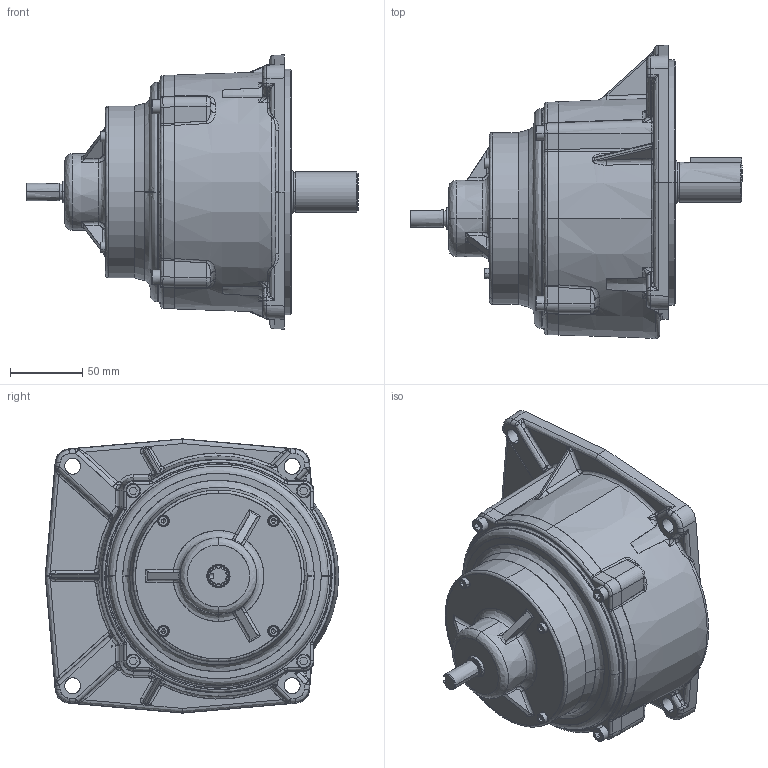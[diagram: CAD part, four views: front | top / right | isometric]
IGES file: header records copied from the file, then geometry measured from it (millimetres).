
Start section: SolidWorks IGES file using analytic representation for surfaces
Bounding box: 230 x 203.34 x 190 mm (x, y, z)
Surface area: 268067.3 mm2 (no closed solid volume)
Topology: 0 solids, 0 shells, 803 faces, 10274 edges, 10256 vertices
Faces by surface type: bspline 501, revolution 302
